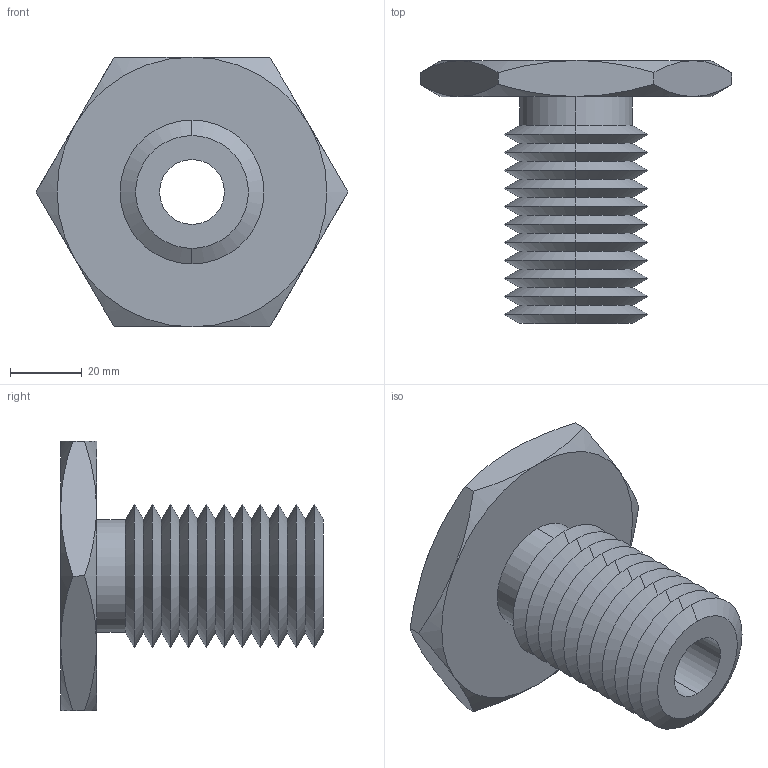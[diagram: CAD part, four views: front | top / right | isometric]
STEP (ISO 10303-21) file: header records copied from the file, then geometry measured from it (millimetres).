
FILE_DESCRIPTION (( 'STEP AP203' ), '1' );
FILE_NAME ('63302.W0042_M18x2,5.step', '2013-12-08T11:13:07', ( 'User' ), ( '' ), 'SwSTEP 2.0', 'SolidWorks 2009', '' );
FILE_SCHEMA (( 'CONFIG_CONTROL_DESIGN' ));
Length unit declared in the file: millimetre
Products named in the file (1): 63302.W0042_M18x2,5
Bounding box: 86.6 x 73 x 75 mm (x, y, z)
Volume: 90430.5 mm3; surface area: 28542.9 mm2
Topology: 1 solids, 1 shells, 71 faces, 146 edges, 78 vertices
Faces by surface type: cone 58, plane 9, cylinder 4
Entity records: 2039 total; most frequent: CARTESIAN_POINT 480, DIRECTION 332, ORIENTED_EDGE 292, EDGE_CURVE 146, AXIS2_PLACEMENT_3D 138, VERTEX_POINT 78, EDGE_LOOP 74, ADVANCED_FACE 71
